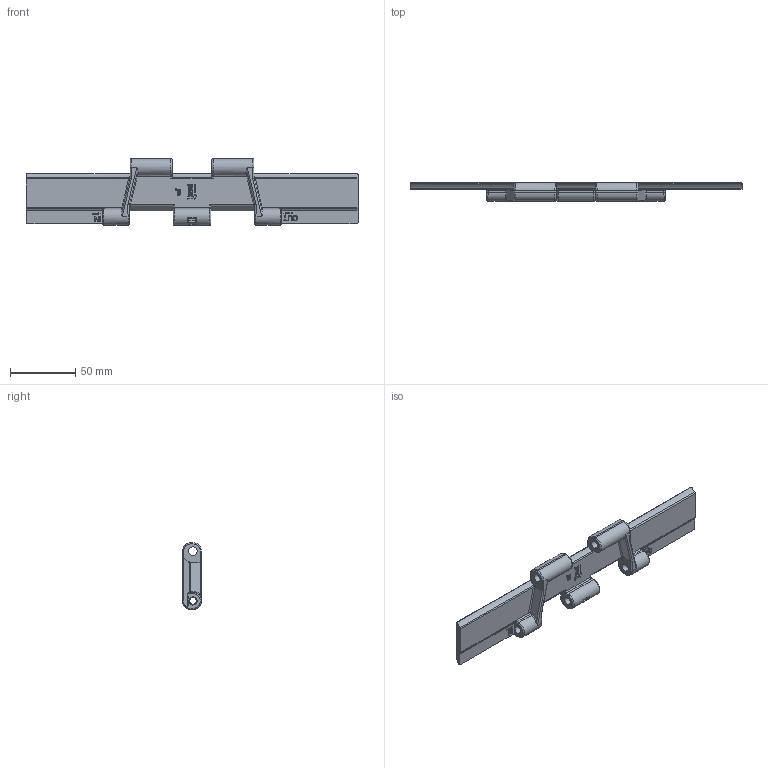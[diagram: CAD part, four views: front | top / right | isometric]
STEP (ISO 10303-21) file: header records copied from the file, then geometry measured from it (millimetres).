
FILE_DESCRIPTION((''),'2;1');
FILE_NAME('P899','2012-06-27T',('jas'),(''),'PRO/ENGINEER BY PARAMETRIC TECHNOLOGY CORPORATION, 2012130','PRO/ENGINEER BY PARAMETRIC TECHNOLOGY CORPORATION, 2012130','');
FILE_SCHEMA(('AUTOMOTIVE_DESIGN { 1 0 10303 214 1 1 1 1 }'));
Length unit declared in the file: millimetre
Products named in the file (1): P899
Bounding box: 254 x 14.46 x 51.1 mm (x, y, z)
Volume: 56037.7 mm3; surface area: 27688.8 mm2
Topology: 1 solids, 1 shells, 708 faces, 1909 edges, 1234 vertices
Faces by surface type: plane 528, cylinder 112, bspline 48, torus 10, sphere 6, cone 4
Entity records: 29145 total; most frequent: CARTESIAN_POINT 11377, ORIENTED_EDGE 3818, DIRECTION 3281, EDGE_CURVE 1909, VECTOR 1581, LINE 1581, VERTEX_POINT 1234, AXIS2_PLACEMENT_3D 850
